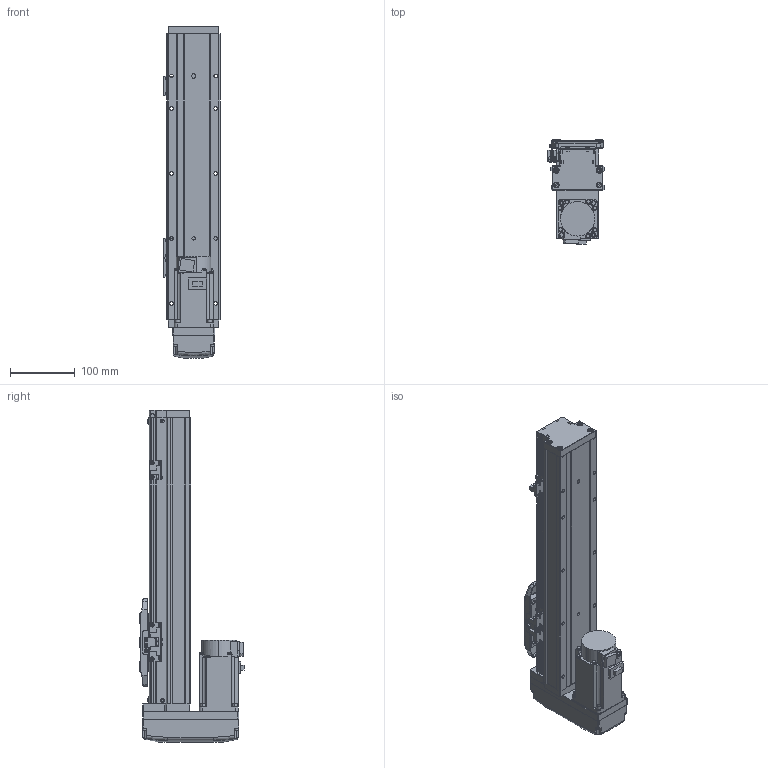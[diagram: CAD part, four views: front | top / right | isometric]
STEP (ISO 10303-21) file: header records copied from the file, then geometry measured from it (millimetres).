
FILE_DESCRIPTION (( 'STEP AP203' ), '1' );
FILE_NAME ('GTH8-250-BM-M20-C4.step', '2022-09-23T01:04:37', ( '微软用户' ), ( '微软中国' ), 'SwSTEP 2.0', 'SolidWorks 2020', '' );
FILE_SCHEMA (( 'CONFIG_CONTROL_DESIGN' ));
Length unit declared in the file: millimetre
Products named in the file (18): GTH80-028; CTHA86-033_M40B; GTH80-006; GTH50-024; GTH8-250-BM-M20-C4; GTH80-013; GTH50-023; GTH80-001_250; GBT 70.3-M3℅6; GBT96.1-2002 3×0.8; GTH80-022; BTH-M3X5X6; GBT 70.1-M3℅6; hg-kn43j_-s100_; GTH80-003; GBT 70.1-M4×16; CTHA86-015-1_CTHA86-015-2; GTH80-004
Assembly tree (57 placements, depth 2):
  GTH8-250-BM-M20-C4
    GTH80-001_250
    GTH80-003
    GTH80-004
    GTH80-006
    GTH80-013
    GBT 70.3-M3℅6  x4
    GTH80-022
    GBT 70.1-M3℅6  x14
    GBT 70.1-M4×16  x8
    GTH80-028  x2
    GTH50-024  x3
    GTH50-023  x3
    GBT96.1-2002 3×0.8  x6
    BTH-M3X5X6  x8
    hg-kn43j_-s100_
    CTHA86-015-1_CTHA86-015-2
    CTHA86-033_M40B
Bounding box: 86.9 x 160.3 x 511 mm (x, y, z)
Volume: 2896368.5 mm3; surface area: 346372.9 mm2
Topology: 59 solids, 59 shells, 2228 faces, 5139 edges, 3147 vertices
Faces by surface type: plane 1187, cylinder 599, cone 260, torus 166, bspline 8, sphere 8
Entity records: 40478 total; most frequent: CARTESIAN_POINT 7121, DIRECTION 6565, ORIENTED_EDGE 6096, EDGE_CURVE 3048, AXIS2_PLACEMENT_3D 2289, VECTOR 1987, LINE 1987, VERTEX_POINT 1922
